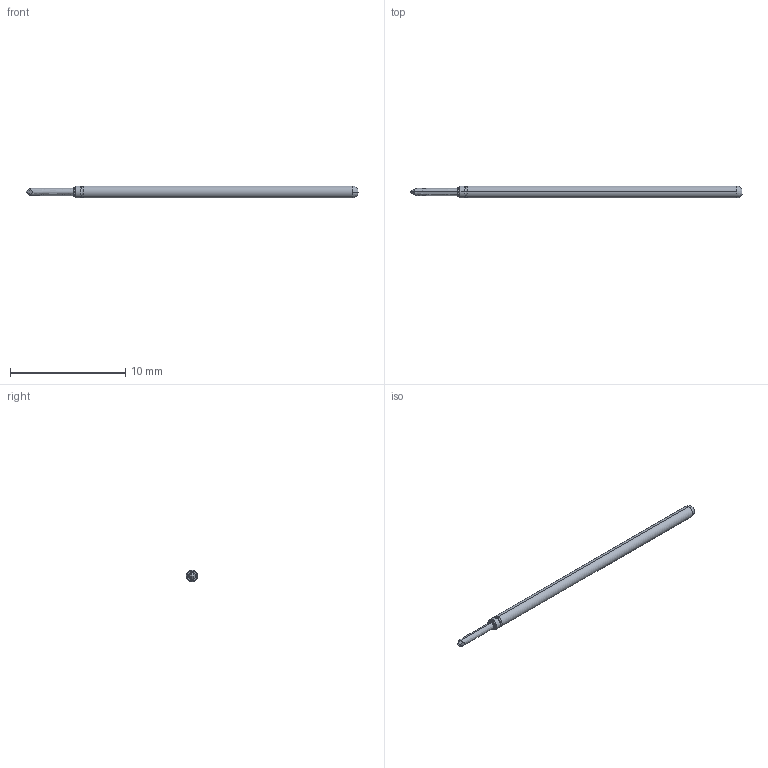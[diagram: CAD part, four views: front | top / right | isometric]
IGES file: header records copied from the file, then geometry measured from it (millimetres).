
Start section: SolidWorks IGES file using analytic representation for surfaces
Global section: file name: Z:\probe solid model mockups\Solidworks models\Parts\LFRE-1I8 RECD.IGS; native system: SolidWorks 2016; preprocessor: SolidWorks 2016; author: mlee; date: 180927.163417; units: inch
Bounding box: 28.78 x 1.02 x 1.02 mm (x, y, z)
Surface area: 86.9 mm2 (no closed solid volume)
Topology: 0 solids, 0 shells, 24 faces, 170 edges, 170 vertices
Faces by surface type: bspline 12, revolution 12
